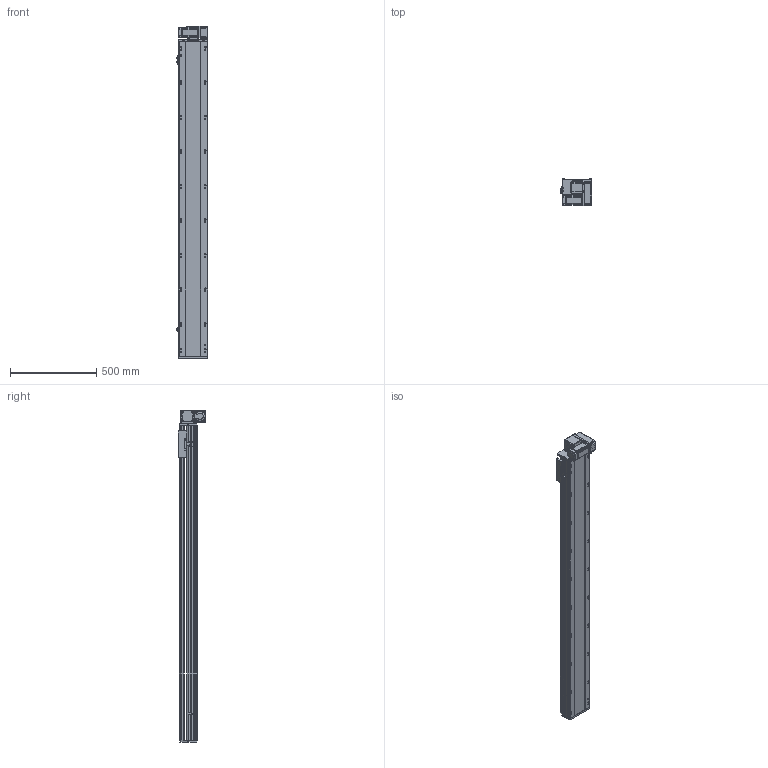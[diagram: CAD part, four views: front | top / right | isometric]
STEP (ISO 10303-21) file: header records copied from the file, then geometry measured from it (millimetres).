
FILE_DESCRIPTION (( 'STEP AP214' ), '1' );
FILE_NAME ('RTB17S-XX-1550-RM-M40-C4.STEP', '2025-12-11T08:20:53', ( '' ), ( '' ), 'SwSTEP 2.0', 'SolidWorks 2018', '' );
FILE_SCHEMA (( 'AUTOMOTIVE_DESIGN' ));
Length unit declared in the file: millimetre
Products named in the file (14): RTB14-L-005P--轴承塑胶压盖^RTB17S-RM-皮带座装配-400W_RTB17S-XX-XX-RM-M40-C4; 400W侜督萇儂^RTB17S-XX-XX-RM-M40-C4; RTB17S-RM-々湍釱蚾饜-400W^RTB17S-XX-XX-RM-M40-C4; RTB17S-L-004佪裝蹟譫蟀諉釱^RTB17S-XX-XX-RM-M40-C4; RTB14-L-018P^RTB17S-RM-々湍釱蚾饜-400W_RTB17S-XX-XX-RM-M40-C4; RTB14-L-008-M20--萇儂啣^RTB17S-RM-々湍釱蚾饜-400W_RTB17S-XX-XX-RM-M40-C4; RTH13-BL-012覜茼え俋离^RTB17S-XX-XX-RM-M40-C4; OMRON EE-SX672 传感器^RTB17S-XX-XX-RM-M40-C4; RTB14-L-017P^RTB17S-RM-々湍釱蚾饜-400W_RTB17S-XX-XX-RM-M40-C4; RTB17S-L-007奻裔^RTB17S-XX-XX-RM-M40-C4; RTB17-R-011菁釱^RTB17S-XX-XX-RM-M40-C4; RTB17S-XX-1550-RM-M40-C4; RTB17S-L-014-T20--々湍釱^RTB17S-RM-々湍釱蚾饜-400W_RTB17S-XX-XX-RM-M40-C4; RTB17S-L-001耜醱啣^RTB17S-XX-XX-RM-M40-C4
Assembly tree (16 placements, depth 3):
  RTB17S-XX-1550-RM-M40-C4
    RTB17-R-011菁釱^RTB17S-XX-XX-RM-M40-C4
    RTB17S-L-007奻裔^RTB17S-XX-XX-RM-M40-C4
    OMRON EE-SX672 传感器^RTB17S-XX-XX-RM-M40-C4  x3
    RTB17S-L-001耜醱啣^RTB17S-XX-XX-RM-M40-C4
    400W侜督萇儂^RTB17S-XX-XX-RM-M40-C4
    RTB17S-L-004佪裝蹟譫蟀諉釱^RTB17S-XX-XX-RM-M40-C4
    RTH13-BL-012覜茼え俋离^RTB17S-XX-XX-RM-M40-C4
    RTB17S-RM-々湍釱蚾饜-400W^RTB17S-XX-XX-RM-M40-C4
      RTB17S-L-014-T20--々湍釱^RTB17S-RM-々湍釱蚾饜-400W_RTB17S-XX-XX-RM-M40-C4
      RTB14-L-005P--轴承塑胶压盖^RTB17S-RM-皮带座装配-400W_RTB17S-XX-XX-RM-M40-C4
      RTB14-L-008-M20--萇儂啣^RTB17S-RM-々湍釱蚾饜-400W_RTB17S-XX-XX-RM-M40-C4
      RTB14-L-017P^RTB17S-RM-々湍釱蚾饜-400W_RTB17S-XX-XX-RM-M40-C4  x2
      RTB14-L-018P^RTB17S-RM-々湍釱蚾饜-400W_RTB17S-XX-XX-RM-M40-C4
Bounding box: 183.5 x 156.5 x 1922.5 mm (x, y, z)
Volume: 16859563.8 mm3; surface area: 1987175.1 mm2
Topology: 15 solids, 15 shells, 2253 faces, 6249 edges, 4077 vertices
Faces by surface type: plane 1074, cylinder 731, bspline 301, cone 139, torus 8
Entity records: 64937 total; most frequent: CARTESIAN_POINT 18254, ORIENTED_EDGE 9342, DIRECTION 8666, EDGE_CURVE 4671, VERTEX_POINT 3065, AXIS2_PLACEMENT_3D 2995, VECTOR 2676, LINE 2676
